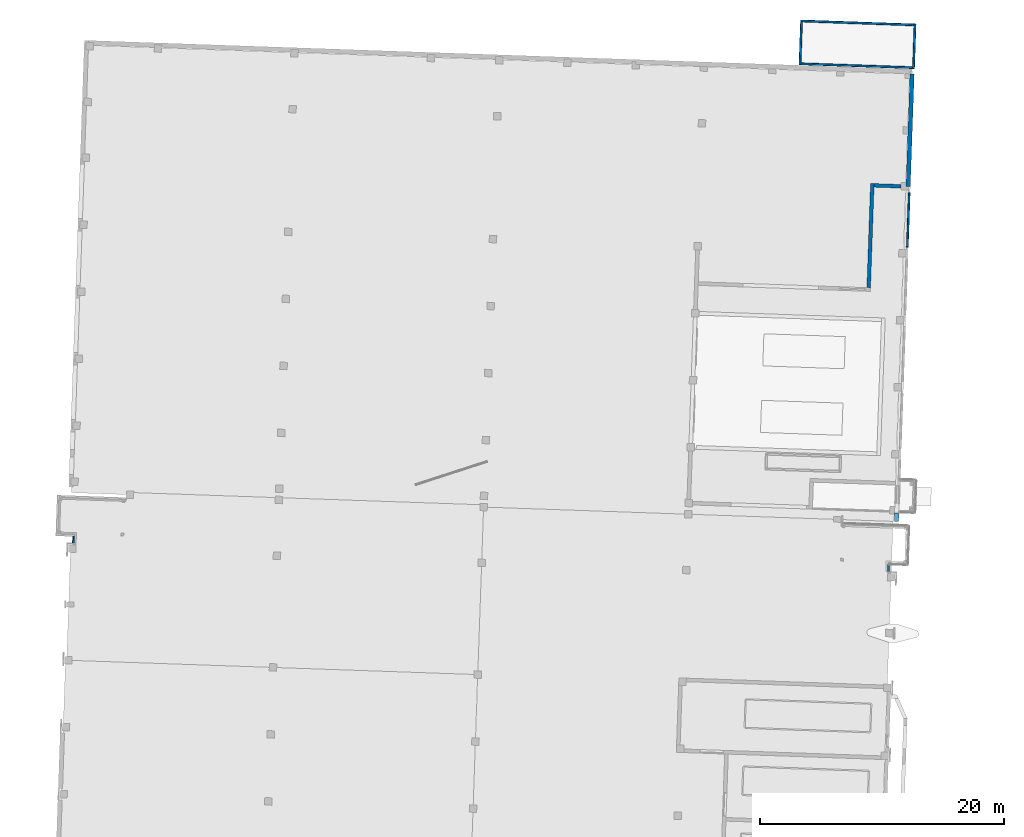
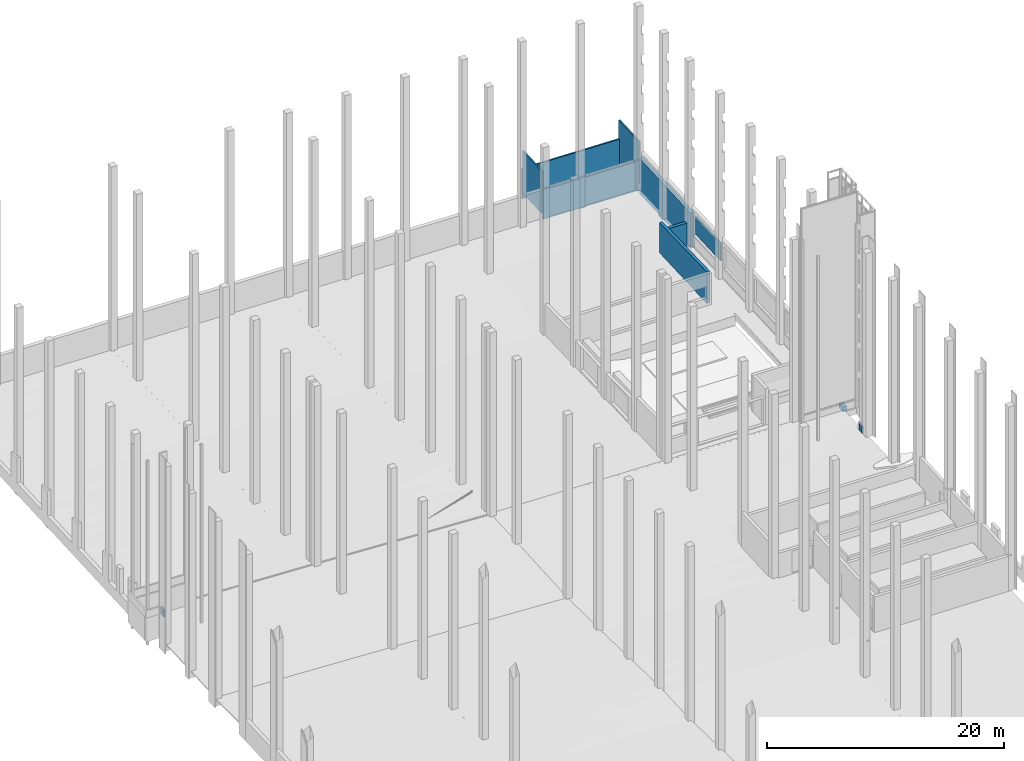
# One storey, part 38 of 44: 11 walls.
"""IFC2X3 building model written with IfcOpenShell, lengths in feet."""

from ifc_helpers import new_model, entity, si_unit, converted_unit, derived_unit, direction, frame, frame_2d, origin, place, context, subcontext, project, spatial, rectangle, extrude, clip, halfspace, material, layer, layer_set, layer_usage, type_object, element, save


model = new_model("IFC2X3")

# Units and contexts
model_context = context("Model", 3, precision=0.0001, world=origin(), true_north=direction((0.999390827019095, 0.0348994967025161)))
body_context = subcontext(model_context, "Body", "Model", "MODEL_VIEW")
ifc_project = project(units=[converted_unit("LENGTHUNIT", "FOOT", entity("IfcRatioMeasure", 0.3048), si_unit("LENGTHUNIT", "METRE"), dimensions=[1, 0, 0, 0, 0, 0, 0]), converted_unit("AREAUNIT", "SQUARE FOOT", entity("IfcRatioMeasure", 0.09290304), si_unit("AREAUNIT", "SQUARE_METRE"), dimensions=[2, 0, 0, 0, 0, 0, 0]), converted_unit("VOLUMEUNIT", "CUBIC FOOT", entity("IfcRatioMeasure", 0.028316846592), si_unit("VOLUMEUNIT", "CUBIC_METRE"), dimensions=[3, 0, 0, 0, 0, 0, 0]), converted_unit("PLANEANGLEUNIT", "DEGREE", entity("IfcRatioMeasure", 0.0174532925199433), si_unit("PLANEANGLEUNIT", "RADIAN"), dimensions=[0, 0, 0, 0, 0, 0, 0]), si_unit("MASSUNIT", "GRAM", prefix="KILO"), si_unit("TIMEUNIT", "SECOND"), si_unit("FREQUENCYUNIT", "HERTZ"), si_unit("THERMODYNAMICTEMPERATUREUNIT", "DEGREE_CELSIUS"), derived_unit("THERMALTRANSMITTANCEUNIT", [(si_unit("MASSUNIT", "GRAM", prefix="KILO"), 1), (si_unit("THERMODYNAMICTEMPERATUREUNIT", "KELVIN"), -1), (si_unit("TIMEUNIT", "SECOND"), -3)]), derived_unit("VOLUMETRICFLOWRATEUNIT", [(si_unit("LENGTHUNIT", "METRE"), 3), (si_unit("TIMEUNIT", "SECOND"), -1)]), si_unit("ELECTRICCURRENTUNIT", "AMPERE"), si_unit("ELECTRICVOLTAGEUNIT", "VOLT"), si_unit("POWERUNIT", "WATT"), si_unit("FORCEUNIT", "NEWTON"), si_unit("ILLUMINANCEUNIT", "LUX"), si_unit("LUMINOUSFLUXUNIT", "LUMEN"), si_unit("LUMINOUSINTENSITYUNIT", "CANDELA"), derived_unit("USERDEFINED", [(si_unit("MASSUNIT", "GRAM", prefix="KILO"), -1), (si_unit("LENGTHUNIT", "METRE"), -2), (si_unit("TIMEUNIT", "SECOND"), 3), (si_unit("LUMINOUSFLUXUNIT", "LUMEN"), 1)]), derived_unit("LINEARVELOCITYUNIT", [(si_unit("LENGTHUNIT", "METRE"), 1), (si_unit("TIMEUNIT", "SECOND"), -1)]), si_unit("PRESSUREUNIT", "PASCAL"), derived_unit("USERDEFINED", [(si_unit("LENGTHUNIT", "METRE"), -2), (si_unit("MASSUNIT", "GRAM", prefix="KILO"), 1), (si_unit("TIMEUNIT", "SECOND"), -2)])], contexts=[model_context])

# Site, building, storey
site_placement = place(None, frame((892.518771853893, 322.38689265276, 0.00393700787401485), z_axis=(0.0, 0.0, 1.0), x_axis=(0.0348994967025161, 0.999390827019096, 0.0)))
site = spatial("IfcSite", under=ifc_project, at=site_placement, Name="Default", CompositionType="ELEMENT")
building_placement = place(site_placement, origin())
building = spatial("IfcBuilding", under=site, at=building_placement, CompositionType="ELEMENT")
storey_placement = place(building_placement, frame((0.0, 0.0, 544.75)))
storey = spatial("IfcBuildingStorey", under=building, at=storey_placement, Name="Exist Garage - Ground Level", CompositionType="ELEMENT", Elevation=544.75)

# Walls
ifc_material_1 = material(Name="Concrete - Cast-in-Place Concrete")
ifc_layer_1 = layer(ifc_material_1, 1.16666666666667)
ifc_layer_set_1 = layer_set([ifc_layer_1], Name="Basic Wall:(existing) Exterior - Below Grade Conc 14\"")
ifc_layer_usage_1 = layer_usage(ifc_layer_set_1, "AXIS2", "POSITIVE", -0.583333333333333)
wall_type_1 = type_object("IfcWallType", Name="Basic Wall:(existing) Exterior - Below Grade Conc 14\"", PredefinedType="STANDARD", material=ifc_layer_set_1)
wall_1_placement = place(storey_placement, frame((102.92729680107, 235.847286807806, -1.66666666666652)))
element("IfcWallStandardCase", 1, at=wall_1_placement, inside=storey, type_object=wall_type_1, material=ifc_layer_usage_1, Name="Basic Wall:(existing) Exterior - Below Grade Conc 14\"", ObjectType="Basic Wall:(existing) Exterior - Below Grade Conc 14\"", context=body_context, shape_type="SweptSolid", body=[
    extrude(rectangle(XDim=2.33332960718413, YDim=1.16666666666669, at=frame_2d((1.16666480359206, 0.0), x_axis=(-1.0, 0.0))), origin(), (0.0, 0.0, 1.0), 1.66666666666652),
])
ifc_layer_usage_2 = layer_usage(ifc_layer_set_1, "AXIS2", "NEGATIVE", 0.583333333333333)
wall_2_placement = place(storey_placement, frame((192.927293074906, 235.847286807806, -2.01999999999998)))
element("IfcWallStandardCase", 2, at=wall_2_placement, inside=storey, type_object=wall_type_1, material=ifc_layer_usage_2, Name="Basic Wall:(existing) Exterior - Below Grade Conc 14\"", ObjectType="Basic Wall:(existing) Exterior - Below Grade Conc 14\"", context=body_context, shape_type="SweptSolid", body=[
    extrude(rectangle(XDim=30.2499999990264, YDim=1.16666666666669, at=frame_2d((15.1249999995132, -1.38777878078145e-15), x_axis=(-1.0, 0.0))), origin(), (0.0, 0.0, 1.0), 11.9366666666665),
])
ifc_material_2 = material(Name="Concrete - Cast-in-Place Concrete_hatch surface")
ifc_layer_2 = layer(ifc_material_2, 0.5)
ifc_layer_set_2 = layer_set([ifc_layer_2], Name="Basic Wall:(existing)Exterior - 6\" Conc")
ifc_layer_usage_3 = layer_usage(ifc_layer_set_2, "AXIS2", "POSITIVE", -0.25)
wall_type_2 = type_object("IfcWallType", Name="Basic Wall:(existing)Exterior - 6\" Conc", PredefinedType="STANDARD", material=ifc_layer_set_2)
wall_3_placement = place(storey_placement, frame((91.2397968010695, 237.472286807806, -0.25), z_axis=(0.0, 0.0, 1.0), x_axis=(-1.0, 0.0, 0.0)))
element("IfcWallStandardCase", 3, at=wall_3_placement, inside=storey, type_object=wall_type_2, material=ifc_layer_usage_3, Name="Basic Wall:(existing)Exterior - 6\" Conc", ObjectType="Basic Wall:(existing)Exterior - 6\" Conc", context=body_context, shape_type="SweptSolid", body=[
    extrude(rectangle(XDim=1.81250000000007, YDim=0.5, at=frame_2d((0.906250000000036, 0.0), x_axis=(-1.0, 0.0))), origin(), (0.0, 0.0, 1.0), 2.5),
])
ifc_layer_usage_4 = layer_usage(ifc_layer_set_2, "AXIS2", "NEGATIVE", 0.25)
wall_4_placement = place(storey_placement, frame((89.4272968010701, 456.51395347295, 9.75)))
element("IfcWallStandardCase", 4, at=wall_4_placement, inside=storey, type_object=wall_type_2, material=ifc_layer_usage_4, Name="Basic Wall:(existing)Exterior - 6\" Conc", ObjectType="Basic Wall:(existing)Exterior - 6\" Conc", context=body_context, shape_type="SweptSolid", body=[
    extrude(rectangle(XDim=1.81249999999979, YDim=0.5, at=frame_2d((0.906249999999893, 0.0), x_axis=(-1.0, 0.0))), origin(), (0.0, 0.0, 1.0), 2.5),
])
ifc_layer_3 = layer(ifc_material_1, 0.5)
ifc_layer_set_3 = layer_set([ifc_layer_3], Name="Basic Wall:Exterior - Below Grade Conc 6\"")
ifc_layer_usage_5 = layer_usage(ifc_layer_set_3, "AXIS2", "POSITIVE", -0.25)
wall_type_3 = type_object("IfcWallType", Name="Basic Wall:Exterior - Below Grade Conc 6\"", PredefinedType="STANDARD", material=ifc_layer_set_3)
wall_5_placement = place(storey_placement, frame((224.5939597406, 235.513953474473, 0.0)))
element("IfcWallStandardCase", 5, at=wall_5_placement, inside=storey, type_object=wall_type_3, material=ifc_layer_usage_5, Name="Basic Wall:Exterior - Below Grade Conc 6\"", ObjectType="Basic Wall:Exterior - Below Grade Conc 6\"", context=body_context, shape_type="SweptSolid", body=[
    extrude(rectangle(XDim=11.9999999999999, YDim=0.5, at=frame_2d((5.99999999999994, 3.63598040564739e-15), x_axis=(-1.0, 0.0))), origin(), (0.0, 0.0, 1.0), 14.25),
])
ifc_layer_usage_6 = layer_usage(ifc_layer_set_3, "AXIS2", "POSITIVE", -0.25)
wall_6_placement = place(storey_placement, frame((236.343959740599, 235.763953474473, -2.08333333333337), z_axis=(0.0, 0.0, 1.0), x_axis=(0.0, 1.0, 0.0)))
element("IfcWallStandardCase", 6, at=wall_6_placement, inside=storey, type_object=wall_type_3, material=ifc_layer_usage_6, Name="Basic Wall:Exterior - Below Grade Conc 6\"", ObjectType="Basic Wall:Exterior - Below Grade Conc 6\"", context=body_context, shape_type="SweptSolid", body=[
    extrude(rectangle(XDim=30.5, YDim=0.5, at=frame_2d((15.25, 6.43929354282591e-15), x_axis=(-1.0, 0.0))), origin(), (0.0, 0.0, 1.0), 10.1666666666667),
])
ifc_layer_usage_7 = layer_usage(ifc_layer_set_3, "AXIS2", "POSITIVE", -0.25)
wall_7_placement = place(storey_placement, frame((236.0939597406, 266.013953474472, 0.0), z_axis=(0.0, 0.0, 1.0), x_axis=(-1.0, 0.0, 0.0)))
element("IfcWallStandardCase", 7, at=wall_7_placement, inside=storey, type_object=wall_type_3, material=ifc_layer_usage_7, Name="Basic Wall:Exterior - Below Grade Conc 6\"", ObjectType="Basic Wall:Exterior - Below Grade Conc 6\"", context=body_context, shape_type="SweptSolid", body=[
    extrude(rectangle(XDim=11.5, YDim=0.5, at=frame_2d((5.75, -1.12132525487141e-14), x_axis=(-1.0, 0.0))), origin(), (0.0, 0.0, 1.0), 14.25),
])
ifc_layer_usage_8 = layer_usage(ifc_layer_set_3, "AXIS2", "NEGATIVE", 0.25)
wall_8_placement = place(storey_placement, frame((224.8439597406, 235.763953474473, -2.08333333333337), z_axis=(0.0, 0.0, 1.0), x_axis=(0.0, 1.0, 0.0)))
element("IfcWallStandardCase", 8, at=wall_8_placement, inside=storey, type_object=wall_type_3, material=ifc_layer_usage_8, Name="Basic Wall:Exterior - Below Grade Conc 6\"", ObjectType="Basic Wall:Exterior - Below Grade Conc 6\"", context=body_context, shape_type="SweptSolid", body=[
    extrude(rectangle(XDim=30.0, YDim=0.5, at=frame_2d((15.0, -6.10622663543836e-15), x_axis=(-1.0, 0.0))), origin(), (0.0, 0.0, 1.0), 10.1666666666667),
])
ifc_material_3 = material(Name="Masonry - Concrete Masonry Units")
ifc_layer_4 = layer(ifc_material_3, 0.96875)
ifc_layer_set_4 = layer_set([ifc_layer_4], Name="Basic Wall:Interior - (C12) 12\" cmu")
ifc_layer_usage_9 = layer_usage(ifc_layer_set_4, "AXIS2", "NEGATIVE", 0.484375)
wall_type_4 = type_object("IfcWallType", Name="Basic Wall:Interior - (C12) 12\" cmu", PredefinedType="STANDARD", material=ifc_layer_set_4)
wall_9_placement = place(storey_placement, frame((165.390973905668, 245.485681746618, -0.516279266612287)))
element("IfcWallStandardCase", 9, at=wall_9_placement, inside=storey, type_object=wall_type_4, material=ifc_layer_usage_9, Name="Basic Wall:Interior - (C12) 12\" cmu", ObjectType="Basic Wall:Interior - (C12) 12\" cmu", context=body_context, shape_type="Clipping", body=[
    clip(clip(clip(extrude(rectangle(XDim=28.0, YDim=0.96875, at=frame_2d((14.0, 0.0), x_axis=(-1.0, 0.0))), origin(), (0.0, 0.0, 1.0), 10.7635260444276), halfspace(frame((28.0, -0.484375, 0.0), z_axis=(-0.00241124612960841, 0.0, -0.999997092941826), x_axis=(0.0, 1.0, 0.0)), False)), halfspace(frame((9.53631916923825, -0.484375, 10.5676555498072), z_axis=(0.0205587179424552, 0.0, 0.999788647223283), x_axis=(0.0, 1.0, 0.0)), False)), halfspace(frame((0.0, -0.484375, 10.7635260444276), z_axis=(0.0205350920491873, 0.0, 0.99978913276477), x_axis=(0.0, 1.0, 0.0)), False)),
])
ifc_layer_usage_10 = layer_usage(ifc_layer_set_4, "AXIS2", "NEGATIVE", 0.484375)
wall_10_placement = place(storey_placement, frame((192.906598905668, 237.763953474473, -0.531811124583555), z_axis=(0.0, 0.0, 1.0), x_axis=(0.0, 1.0, 0.0)))
element("IfcWallStandardCase", 10, at=wall_10_placement, inside=storey, type_object=wall_type_4, material=ifc_layer_usage_10, Name="Basic Wall:Interior - (C12) 12\" cmu", ObjectType="Basic Wall:Interior - (C12) 12\" cmu", context=body_context, shape_type="Clipping", body=[
    clip(clip(extrude(rectangle(XDim=7.23735327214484, YDim=0.96875, at=frame_2d((3.61867663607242, -3.83026943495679e-15), x_axis=(-1.0, 0.0))), origin(), (0.0, 0.0, 1.0), 7.91558138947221), halfspace(frame((7.23735327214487, -0.484375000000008, 0.0), z_axis=(-0.0109425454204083, 0.0, -0.999940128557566), x_axis=(0.0, 1.0, 0.0)), False)), halfspace(frame((0.0, -0.484375, 7.91558138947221), z_axis=(0.00653167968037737, 0.0, 0.999978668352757), x_axis=(0.0, 1.0, 0.0)), False)),
])
ifc_material_4 = material(Name="Masonry - Concrete Masonry Units_rated")
ifc_layer_5 = layer(ifc_material_4, 0.46875)
ifc_layer_set_5 = layer_set([ifc_layer_5], Name="Basic Wall:Interior - (C6) 6\" cmu_rated 2")
ifc_layer_usage_11 = layer_usage(ifc_layer_set_5, "AXIS2", "POSITIVE", -0.234375)
wall_type_5 = type_object("IfcWallType", Name="Basic Wall:Interior - (C6) 6\" cmu_rated 2", PredefinedType="STANDARD", material=ifc_layer_set_5)
wall_11_placement = place(storey_placement, frame((176.593959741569, 235.498328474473, 3.6400000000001)))
element("IfcWallStandardCase", 11, at=wall_11_placement, inside=storey, type_object=wall_type_5, material=ifc_layer_usage_11, Name="Basic Wall:Interior - (C6) 6\" cmu_rated 2", ObjectType="Basic Wall:Interior - (C6) 6\" cmu_rated 2", context=body_context, shape_type="SweptSolid", body=[
    extrude(rectangle(XDim=14.6666666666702, YDim=0.46875, at=frame_2d((7.33333333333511, 0.0), x_axis=(-1.0, 0.0))), origin(), (0.0, 0.0, 1.0), 6.00583333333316),
])

save(model, "model.ifc")
